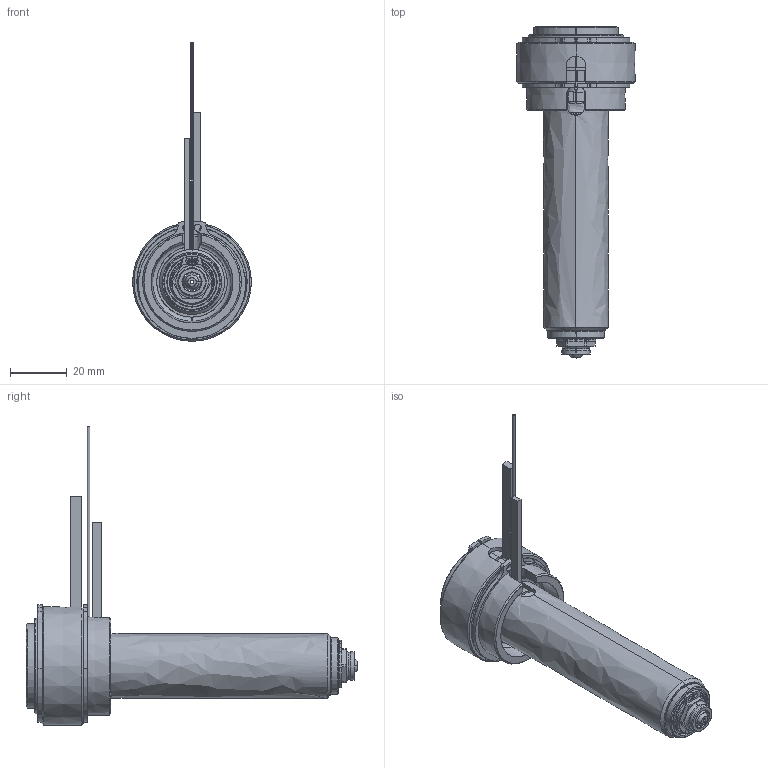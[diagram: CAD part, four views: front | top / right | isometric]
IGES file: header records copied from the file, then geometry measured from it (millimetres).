
Start section: SolidWorks IGES file using analytic representation for surfaces
Global section: file name: C:\Documents and Settings\ws-20\Desktop\TEM\UGER3552-M-A-0 [Øb-1.30  ØC-7.0].IGS; native system: SolidWorks 2012; preprocessor: SolidWorks 2012; author: ws-20; date: 120410.100504; units: millimetre
Bounding box: 42 x 117.4 x 105.6 mm (x, y, z)
Surface area: 37330.8 mm2 (no closed solid volume)
Topology: 0 solids, 0 shells, 196 faces, 3244 edges, 3244 vertices
Faces by surface type: revolution 125, bspline 71
